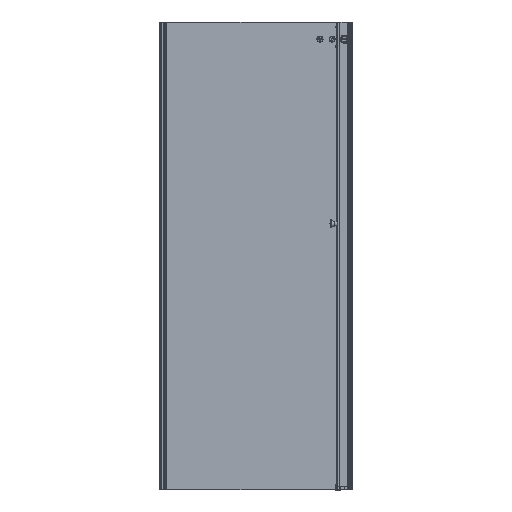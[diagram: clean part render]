
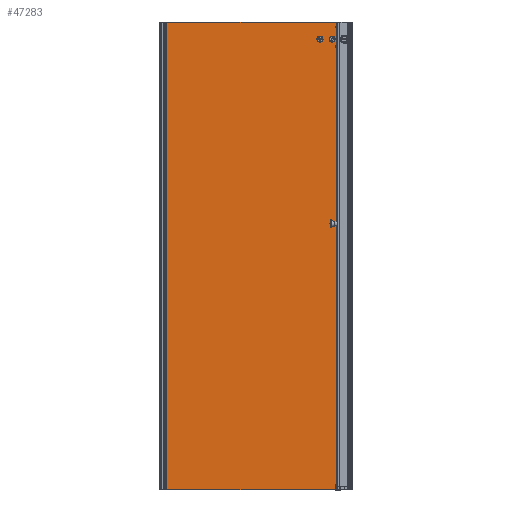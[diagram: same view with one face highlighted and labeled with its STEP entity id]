
A CAD part, left-side view. The second image highlights one B-rep face of the part: STEP entity #47283.
In plain terms, the highlighted planar face has unit normal (-1, 0, 0).
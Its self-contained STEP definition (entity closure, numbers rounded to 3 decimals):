
#1924=FACE_BOUND('',#9075,.T.);
#1925=FACE_BOUND('',#9076,.T.);
#3100=PLANE('',#52289);
#6162=FACE_OUTER_BOUND('',#9074,.T.);
#9074=EDGE_LOOP('',(#43057,#43058,#43059,#43060));
#9075=EDGE_LOOP('',(#43061,#43062));
#9076=EDGE_LOOP('',(#43063,#43064));
#11249=CIRCLE('',#52290,9.);
#11250=CIRCLE('',#52291,9.);
#11251=CIRCLE('',#52292,9.);
#11252=CIRCLE('',#52293,9.);
#14415=LINE('',#333083,#17630);
#14419=LINE('',#333091,#17634);
#14420=LINE('',#333093,#17635);
#14421=LINE('',#333094,#17636);
#17630=VECTOR('',#65099,1.);
#17634=VECTOR('',#65105,1.);
#17635=VECTOR('',#65106,1.);
#17636=VECTOR('',#65107,1.);
#22310=VERTEX_POINT('',#333081);
#22311=VERTEX_POINT('',#333082);
#22314=VERTEX_POINT('',#333090);
#22315=VERTEX_POINT('',#333092);
#22316=VERTEX_POINT('',#333095);
#22317=VERTEX_POINT('',#333096);
#22318=VERTEX_POINT('',#333099);
#22319=VERTEX_POINT('',#333100);
#29252=EDGE_CURVE('',#22310,#22311,#14415,.T.);
#29256=EDGE_CURVE('',#22314,#22310,#14419,.T.);
#29257=EDGE_CURVE('',#22315,#22311,#14420,.T.);
#29258=EDGE_CURVE('',#22315,#22314,#14421,.T.);
#29259=EDGE_CURVE('',#22316,#22317,#11249,.T.);
#29260=EDGE_CURVE('',#22317,#22316,#11250,.T.);
#29261=EDGE_CURVE('',#22318,#22319,#11251,.T.);
#29262=EDGE_CURVE('',#22319,#22318,#11252,.T.);
#43057=ORIENTED_EDGE('',*,*,#29256,.T.);
#43058=ORIENTED_EDGE('',*,*,#29252,.T.);
#43059=ORIENTED_EDGE('',*,*,#29257,.F.);
#43060=ORIENTED_EDGE('',*,*,#29258,.T.);
#43061=ORIENTED_EDGE('',*,*,#29259,.F.);
#43062=ORIENTED_EDGE('',*,*,#29260,.F.);
#43063=ORIENTED_EDGE('',*,*,#29261,.F.);
#43064=ORIENTED_EDGE('',*,*,#29262,.F.);
#47283=ADVANCED_FACE('',(#6162,#1924,#1925),#3100,.T.);
#52289=AXIS2_PLACEMENT_3D('',#333089,#65103,#65104);
#52290=AXIS2_PLACEMENT_3D('',#333097,#65108,#65109);
#52291=AXIS2_PLACEMENT_3D('',#333098,#65110,#65111);
#52292=AXIS2_PLACEMENT_3D('',#333101,#65112,#65113);
#52293=AXIS2_PLACEMENT_3D('',#333102,#65114,#65115);
#65099=DIRECTION('',(0.,1.,0.));
#65103=DIRECTION('center_axis',(-1.,0.,0.));
#65104=DIRECTION('ref_axis',(0.,0.,-1.));
#65105=DIRECTION('',(0.,0.,1.));
#65106=DIRECTION('',(0.,0.,1.));
#65107=DIRECTION('',(0.,-1.,0.));
#65108=DIRECTION('center_axis',(-1.,0.,0.));
#65109=DIRECTION('ref_axis',(0.,0.,1.));
#65110=DIRECTION('center_axis',(-1.,0.,0.));
#65111=DIRECTION('ref_axis',(0.,0.,1.));
#65112=DIRECTION('center_axis',(-1.,0.,0.));
#65113=DIRECTION('ref_axis',(0.,0.,1.));
#65114=DIRECTION('center_axis',(-1.,0.,0.));
#65115=DIRECTION('ref_axis',(0.,0.,1.));
#333081=CARTESIAN_POINT('',(1278.743,51.938,1920.));
#333082=CARTESIAN_POINT('',(1278.743,773.938,1920.));
#333083=CARTESIAN_POINT('',(1278.743,412.938,1920.));
#333089=CARTESIAN_POINT('Origin',(1278.743,412.938,0.));
#333090=CARTESIAN_POINT('',(1278.743,51.938,0.));
#333091=CARTESIAN_POINT('',(1278.743,51.938,0.));
#333092=CARTESIAN_POINT('',(1278.743,773.938,0.));
#333093=CARTESIAN_POINT('',(1278.743,773.938,0.));
#333094=CARTESIAN_POINT('',(1278.743,412.938,0.));
#333095=CARTESIAN_POINT('',(1278.743,82.3,1859.));
#333096=CARTESIAN_POINT('',(1278.743,91.3,1850.));
#333097=CARTESIAN_POINT('Origin',(1278.743,82.3,1850.));
#333098=CARTESIAN_POINT('Origin',(1278.743,82.3,1850.));
#333099=CARTESIAN_POINT('',(1278.743,132.3,1859.));
#333100=CARTESIAN_POINT('',(1278.743,141.3,1850.));
#333101=CARTESIAN_POINT('Origin',(1278.743,132.3,1850.));
#333102=CARTESIAN_POINT('Origin',(1278.743,132.3,1850.));
